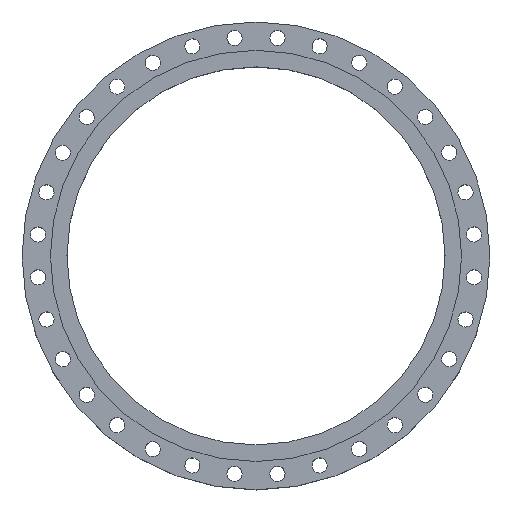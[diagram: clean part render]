
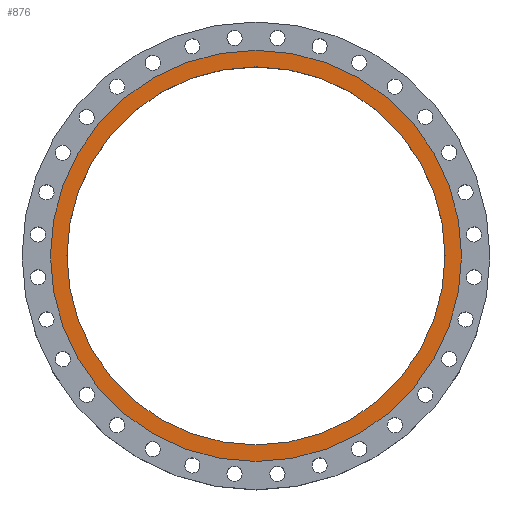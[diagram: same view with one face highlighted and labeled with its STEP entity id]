
A CAD part, top view. The second image highlights one B-rep face of the part: STEP entity #876.
In plain terms, the highlighted planar face has unit normal (0, 0, 1).
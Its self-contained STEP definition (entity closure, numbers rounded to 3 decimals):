
#876=ADVANCED_FACE('',(#1995,#1997),#1999,.T.);
#1995=FACE_BOUND('',#1996,.T.);
#1996=EDGE_LOOP('',(#2420));
#1997=FACE_BOUND('',#1998,.T.);
#1998=EDGE_LOOP('',(#2421));
#1999=PLANE('',#2000);
#2000=AXIS2_PLACEMENT_3D('',#2001,#2002,#2003);
#2001=CARTESIAN_POINT('',(0.,0.,132.5));
#2002=DIRECTION('',(0.,0.,1.));
#2003=DIRECTION('',(0.,1.,0.));
#2420=ORIENTED_EDGE('',*,*,#2614,.F.);
#2421=ORIENTED_EDGE('',*,*,#2616,.T.);
#2614=EDGE_CURVE('',#2968,#2968,#2969,.T.);
#2616=EDGE_CURVE('',#2972,#2972,#2973,.T.);
#2968=VERTEX_POINT('',#5030);
#2969=CIRCLE('',#5031,652.5);
#2972=VERTEX_POINT('',#5040);
#2973=CIRCLE('',#5041,600.);
#5030=CARTESIAN_POINT('',(0.,652.5,132.5));
#5031=AXIS2_PLACEMENT_3D('',#5032,#5033,#5034);
#5032=CARTESIAN_POINT('',(0.,0.,132.5));
#5033=DIRECTION('',(0.,0.,-1.));
#5034=DIRECTION('',(0.,1.,0.));
#5040=CARTESIAN_POINT('',(0.,600.,132.5));
#5041=AXIS2_PLACEMENT_3D('',#5042,#5043,#5044);
#5042=CARTESIAN_POINT('',(0.,0.,132.5));
#5043=DIRECTION('',(0.,0.,-1.));
#5044=DIRECTION('',(0.,1.,0.));
